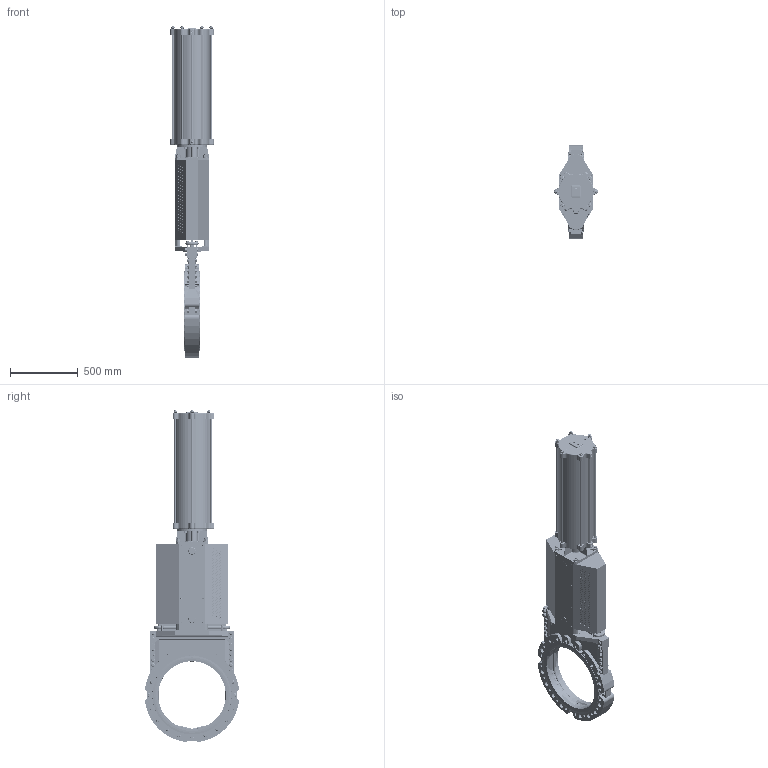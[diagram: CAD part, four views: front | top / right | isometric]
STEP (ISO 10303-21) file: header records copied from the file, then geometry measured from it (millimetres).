
FILE_DESCRIPTION(/* description */ (''),/* implementation_level */ '2;1');
FILE_NAME(/* name */ 'F:\Emir\3D-block special\WB\WB14-DN500-PN10-FRSC250-630.stp',/* time_stamp */ '2018-09-13T13:18:29+02:00',/* author */ ('emimus'),/* organization */ (''),/* preprocessor_version */ 'ST-DEVELOPER v17.2',/* originating_system */ 'Autodesk Inventor 2019',/* authorisation */ '');
FILE_SCHEMA (('CONFIG_CONTROL_DESIGN'));
Products named in the file (1): WB14-DN500-PN10-FRSC250-630_Shrinkwrap_1
Bounding box: 322 x 692.02 x 2448.51 mm (x, y, z)
Volume: 50222411 mm3; surface area: 8182557.5 mm2
Topology: 1 solids, 1 shells, 4636 faces, 12061 edges, 7601 vertices
Faces by surface type: plane 2003, cylinder 1333, cone 595, torus 318, bspline 215, sphere 172
Full cylindrical faces by diameter (mm): 3.7 x16, 4 x2, 4.2 x16, 4.3 x6, 4.5 x12, 4.917 x7, 5 x2, 6.647 x4, 7.5 x4, 8.376 x4, 9.5 x2, 10.106 x10, 12 x4, 12.5 x6, 13 x4, 14 x6, 15 x1, 16 x41, 17 x10, 17.294 x4, 17.5 x6, 18 x1, 18.2 x4, 18.5 x2, 18.631 x2, 20 x8, 20.752 x40, 21 x8, 22.49 x29, 24 x8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
Entity records: 152988 total; most frequent: CARTESIAN_POINT 40976, ORIENTED_EDGE 23682, DIRECTION 23572, EDGE_CURVE 11841, AXIS2_PLACEMENT_3D 9334, VERTEX_POINT 7601, EDGE_LOOP 5482, LINE 4904
